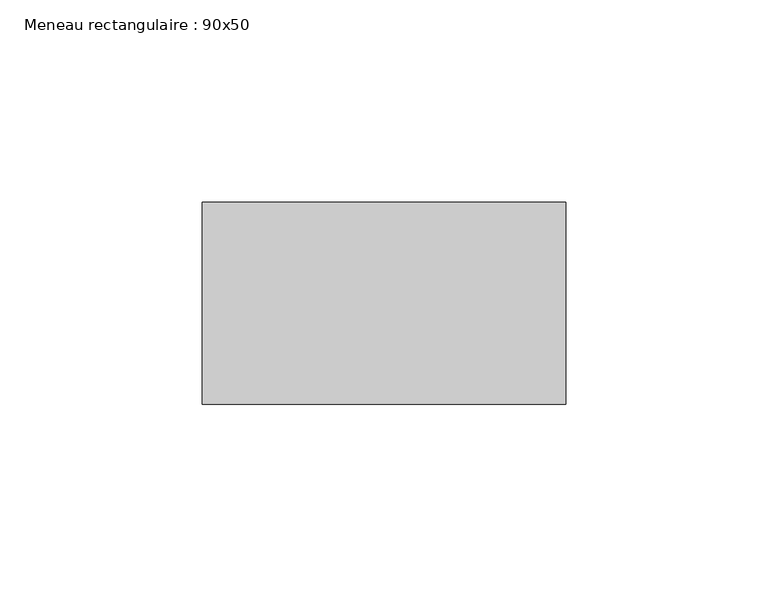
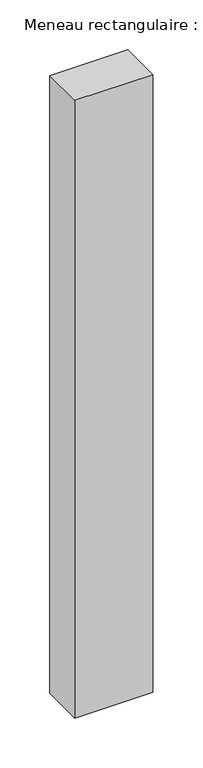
"""IFC4 building model written with IfcOpenShell, lengths in millimetres: member geometry, Meneau rectangulaire : 90x50."""

from ifc_helpers import new_model, si_unit, frame, origin, place, context, project, spatial, polyline, outline, extrude, source, transform, mapped, element, save


def meneau_rectangulaire_90x50_de649e35(model_context):
    return source(origin(), model_context, "Body", "SweptSolid", [
        extrude(outline(polyline([(0.0, 0.0), (0.0, -50.0), (-90.0, -50.0), (-90.0, 0.0), (0.0, 0.0)])), frame((0.0, 0.0, -755.4354296), z_axis=(0.0, 0.0, 1.0), x_axis=(1.0, 0.0, 0.0)), (0.0, 0.0, 1.0), 755.4354296),
    ])


if __name__ == "__main__":
    model = new_model("IFC4")
    model_context = context("Model", 3, world=origin())
    ifc_project = project(units=[si_unit("LENGTHUNIT", "METRE", prefix="MILLI")], contexts=[model_context])
    site = spatial("IfcSite", under=ifc_project)
    building = spatial("IfcBuilding", under=site)
    placement = place(None, origin())
    meneau_rectangulaire_90x50_shape = meneau_rectangulaire_90x50_de649e35(model_context)
    element("IfcMember", 1, ObjectType="Meneau rectangulaire : 90x50", at=placement, inside=building, context=model_context, shape_type="MappedRepresentation", body=[
        mapped(meneau_rectangulaire_90x50_shape, transform((0.0, 0.0, 0.0), x_axis=(1.0, 0.0, 0.0), y_axis=(0.0, 1.0, 0.0), z_axis=(0.0, 0.0, 1.0))),
    ])
    save(model, "model.ifc")
